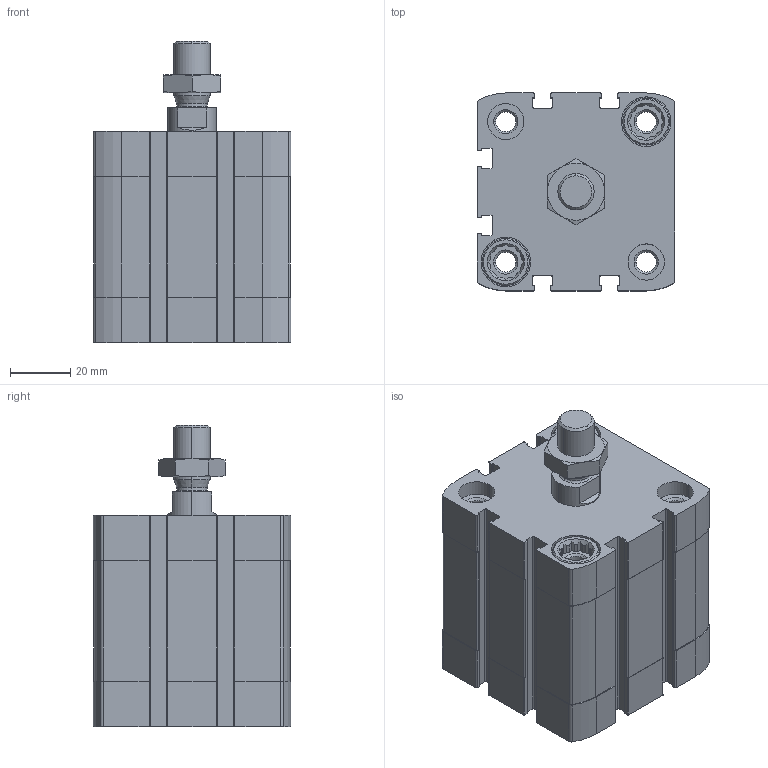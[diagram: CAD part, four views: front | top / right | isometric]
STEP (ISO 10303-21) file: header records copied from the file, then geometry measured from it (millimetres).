
FILE_DESCRIPTION (( 'STEP AP203' ), '1' );
FILE_NAME ('CCN50-25M.STEP', '2017-04-05T13:26:34', ( '' ), ( '' ), 'SwSTEP 2.0', 'SolidWorks 2016', '' );
FILE_SCHEMA (( 'CONFIG_CONTROL_DESIGN' ));
Length unit declared in the file: millimetre
Products named in the file (4): CCN50-25M; CCN-25----(Z); CCN-25_(KS); _DIN-439-B - M12x1.25(F)
Assembly tree (3 placements, depth 2):
  CCN50-25M
    CCN-25----(Z)
    CCN-25_(KS)
    _DIN-439-B - M12x1.25(F)
Bounding box: 65.5 x 65.5 x 99.7 mm (x, y, z)
Volume: 228062.3 mm3; surface area: 61244.5 mm2
Topology: 3 solids, 3 shells, 491 faces, 1316 edges, 862 vertices
Faces by surface type: plane 227, cylinder 212, cone 48, bspline 4
Entity records: 16072 total; most frequent: CARTESIAN_POINT 3135, DIRECTION 2672, ORIENTED_EDGE 2632, EDGE_CURVE 1316, AXIS2_PLACEMENT_3D 977, VERTEX_POINT 862, VECTOR 718, LINE 718
